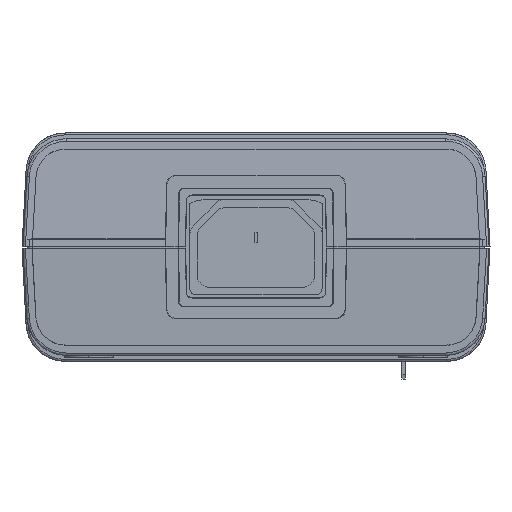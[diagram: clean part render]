
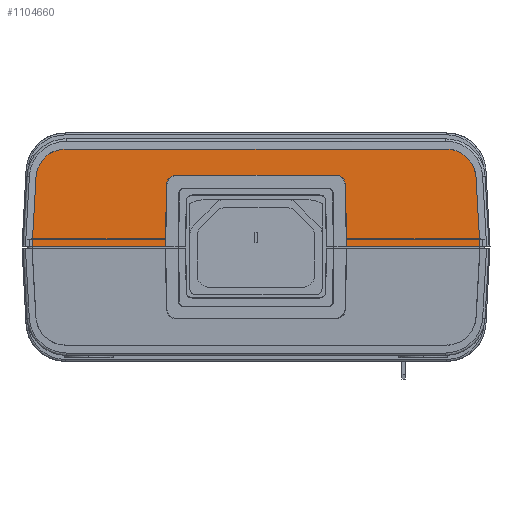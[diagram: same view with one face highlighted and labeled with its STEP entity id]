
A CAD part, left-side view. The second image highlights one B-rep face of the part: STEP entity #1104660.
In plain terms, the highlighted planar face has unit normal (-0.999, 0, 0.052) as drawn and (0, -0.999, 0.052) by its records, which use the part's own axes.
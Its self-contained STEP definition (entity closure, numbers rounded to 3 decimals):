
#647600=CARTESIAN_POINT('',(-120.726,-110.072,0.));
#647610=VERTEX_POINT('',#647600);
#647640=CARTESIAN_POINT('',(-120.726,-110.072,0.));
#647650=DIRECTION('',(1.,0.,0.));
#647660=VECTOR('',#647650,1.);
#647670=LINE('',#647640,#647660);
#647680=CARTESIAN_POINT('',(-93.499,-110.072,0.));
#647690=VERTEX_POINT('',#647680);
#647700=EDGE_CURVE('',#647610,#647690,#647670,.T.);
#669760=CARTESIAN_POINT('',(-56.491,-110.072,0.));
#669770=VERTEX_POINT('',#669760);
#669800=CARTESIAN_POINT('',(-56.491,-110.072,0.));
#669810=DIRECTION('',(1.,0.,0.));
#669820=VECTOR('',#669810,1.);
#669830=LINE('',#669800,#669820);
#669840=CARTESIAN_POINT('',(-29.264,-110.072,
0.));
#669850=VERTEX_POINT('',#669840);
#669860=EDGE_CURVE('',#669770,#669850,#669830,.T.);
#1103130=CARTESIAN_POINT('',(-113.854,-109.029,19.897
));
#1103140=VERTEX_POINT('',#1103130);
#1103220=CARTESIAN_POINT('',(-36.136,-109.029,
19.895));
#1103230=VERTEX_POINT('',#1103220);
#1103260=CARTESIAN_POINT('',(-36.136,-109.029,19.897
));
#1103270=DIRECTION('',(-1.,0.,0.));
#1103280=VECTOR('',#1103270,1.);
#1103290=LINE('',#1103260,#1103280);
#1103300=EDGE_CURVE('',#1103230,#1103140,#1103290,.T.);
#1103480=CARTESIAN_POINT('',(-119.927,-109.329,
14.17));
#1103490=CARTESIAN_POINT('',(-119.915,-109.32,
14.346));
#1103500=CARTESIAN_POINT('',(-119.879,-109.3,
14.718));
#1103510=CARTESIAN_POINT('',(-119.762,-109.269,
15.313));
#1103520=CARTESIAN_POINT('',(-119.596,-109.241,
15.855));
#1103530=CARTESIAN_POINT('',(-119.159,-109.185,
16.923));
#1103540=CARTESIAN_POINT('',(-118.367,-109.127,
18.025));
#1103550=CARTESIAN_POINT('',(-117.286,-109.083,
18.86));
#1103560=CARTESIAN_POINT('',(-116.645,-109.064,
19.231));
#1103570=CARTESIAN_POINT('',(-116.101,-109.051,
19.477));
#1103580=CARTESIAN_POINT('',(-115.525,-109.041,
19.674));
#1103590=CARTESIAN_POINT('',(-114.97,-109.034,
19.8));
#1103600=CARTESIAN_POINT('',(-114.442,-109.03,
19.881));
#1103610=CARTESIAN_POINT('',(-114.06,-109.029,
19.895));
#1103620=CARTESIAN_POINT('',(-113.854,-109.029,19.897
));
#1103630=B_SPLINE_CURVE_WITH_KNOTS('',3,(#1103480,#1103490,#1103500,
#1103510,#1103520,#1103530,#1103540,#1103550,#1103560,#1103570,#1103580,
#1103590,#1103600,#1103610,#1103620),.UNSPECIFIED.,.F.,.F.,(4,1,1,1,1,1,
1,1,1,1,1,1,4),(0.,0.063,0.125,0.188,
0.25,0.5,0.625,0.688,
0.75,0.813,0.875,0.938,1.),
.UNSPECIFIED.);
#1103640=CARTESIAN_POINT('',(-119.927,-109.329,
14.17));
#1103650=VERTEX_POINT('',#1103640);
#1103660=EDGE_CURVE('',#1103650,#1103140,#1103630,.T.);
#1103850=CARTESIAN_POINT('',(-38.43,-109.335,
14.062));
#1103860=DIRECTION('',(0.,-0.999,0.052));
#1103870=DIRECTION('',(0.,-0.052,-0.999));
#1103880=AXIS2_PLACEMENT_3D('',#1103850,#1103860,#1103870);
#1103890=PLANE('',#1103880);
#1103900=ORIENTED_EDGE('',*,*,#647700,.T.);
#1103910=CARTESIAN_POINT('',(-119.927,-109.329,
14.17));
#1103920=DIRECTION('',(-0.056,-0.052,
-0.997));
#1103930=VECTOR('',#1103920,1.);
#1103940=LINE('',#1103910,#1103930);
#1103950=EDGE_CURVE('',#1103650,#647610,#1103940,.T.);
#1103960=ORIENTED_EDGE('',*,*,#1103950,.T.);
#1103970=ORIENTED_EDGE('',*,*,#1103660,.F.);
#1103980=ORIENTED_EDGE('',*,*,#1103300,.T.);
#1103990=CARTESIAN_POINT('',(-36.083,-109.332,
14.117));
#1104000=DIRECTION('',(0.,0.999,-0.052));
#1104010=DIRECTION('',(0.,0.052,0.999));
#1104020=AXIS2_PLACEMENT_3D('',#1103990,#1104000,#1104010);
#1104030=CIRCLE('',#1104020,5.785);
#1104040=CARTESIAN_POINT('',(-33.894,-109.051,
19.466));
#1104050=VERTEX_POINT('',#1104040);
#1104060=EDGE_CURVE('',#1103230,#1104050,#1104030,.T.);
#1104070=ORIENTED_EDGE('',*,*,#1104060,.F.);
#1104080=CARTESIAN_POINT('',(-36.153,-109.348,
13.807));
#1104090=DIRECTION('',(0.,0.999,-0.052));
#1104100=DIRECTION('',(0.,-0.052,-0.999));
#1104110=AXIS2_PLACEMENT_3D('',#1104080,#1104090,#1104100);
#1104120=CIRCLE('',#1104110,6.099);
#1104130=CARTESIAN_POINT('',(-30.064,-109.329,
14.173));
#1104140=VERTEX_POINT('',#1104130);
#1104150=EDGE_CURVE('',#1104050,#1104140,#1104120,.T.);
#1104160=ORIENTED_EDGE('',*,*,#1104150,.F.);
#1104170=CARTESIAN_POINT('',(-29.264,-110.072,
0.));
#1104180=DIRECTION('',(-0.056,0.052,
0.997));
#1104190=VECTOR('',#1104180,1.);
#1104200=LINE('',#1104170,#1104190);
#1104210=EDGE_CURVE('',#669850,#1104140,#1104200,.T.);
#1104220=ORIENTED_EDGE('',*,*,#1104210,.T.);
#1104230=ORIENTED_EDGE('',*,*,#669860,.T.);
#1104240=CARTESIAN_POINT('',(-56.491,-110.072,0.));
#1104250=DIRECTION('',(-0.017,0.052,
0.998));
#1104260=VECTOR('',#1104250,1.);
#1104270=LINE('',#1104240,#1104260);
#1104280=CARTESIAN_POINT('',(-56.712,-109.409,
12.651));
#1104290=VERTEX_POINT('',#1104280);
#1104300=EDGE_CURVE('',#669770,#1104290,#1104270,.T.);
#1104310=ORIENTED_EDGE('',*,*,#1104300,.F.);
#1104320=CARTESIAN_POINT('',(-58.725,-109.411,
12.604));
#1104330=DIRECTION('',(0.,-0.999,
0.052));
#1104340=DIRECTION('',(-0.441,-0.047,
-0.897));
#1104350=AXIS2_PLACEMENT_3D('',#1104320,#1104330,#1104340);
#1104360=ELLIPSE('',#1104350,2.024,2.01);
#1104370=CARTESIAN_POINT('',(-58.714,-109.305,
14.623));
#1104380=VERTEX_POINT('',#1104370);
#1104390=EDGE_CURVE('',#1104290,#1104380,#1104360,.T.);
#1104400=ORIENTED_EDGE('',*,*,#1104390,.F.);
#1104410=CARTESIAN_POINT('',(-58.714,-109.305,14.623));
#1104420=DIRECTION('',(-1.,0.,0.));
#1104430=VECTOR('',#1104420,1.);
#1104440=LINE('',#1104410,#1104430);
#1104450=CARTESIAN_POINT('',(-91.277,-109.305,
14.623));
#1104460=VERTEX_POINT('',#1104450);
#1104470=EDGE_CURVE('',#1104380,#1104460,#1104440,.T.);
#1104480=ORIENTED_EDGE('',*,*,#1104470,.F.);
#1104490=CARTESIAN_POINT('',(-91.266,-109.411,
12.604));
#1104500=DIRECTION('',(0.,-0.999,
0.052));
#1104510=DIRECTION('',(-0.441,0.047,
0.897));
#1104520=AXIS2_PLACEMENT_3D('',#1104490,#1104500,#1104510);
#1104530=ELLIPSE('',#1104520,2.024,2.01);
#1104540=CARTESIAN_POINT('',(-93.278,-109.409,
12.651));
#1104550=VERTEX_POINT('',#1104540);
#1104560=EDGE_CURVE('',#1104460,#1104550,#1104530,.T.);
#1104570=ORIENTED_EDGE('',*,*,#1104560,.F.);
#1104580=CARTESIAN_POINT('',(-93.278,-109.409,
12.651));
#1104590=DIRECTION('',(-0.017,-0.052,
-0.998));
#1104600=VECTOR('',#1104590,1.);
#1104610=LINE('',#1104580,#1104600);
#1104620=EDGE_CURVE('',#1104550,#647690,#1104610,.T.);
#1104630=ORIENTED_EDGE('',*,*,#1104620,.F.);
#1104640=EDGE_LOOP('',(#1104630,#1104570,#1104480,#1104400,#1104310,
#1104230,#1104220,#1104160,#1104070,#1103980,#1103970,#1103960,#1103900)
);
#1104650=FACE_OUTER_BOUND('',#1104640,.T.);
#1104660=ADVANCED_FACE('',(#1104650),#1103890,.T.);
